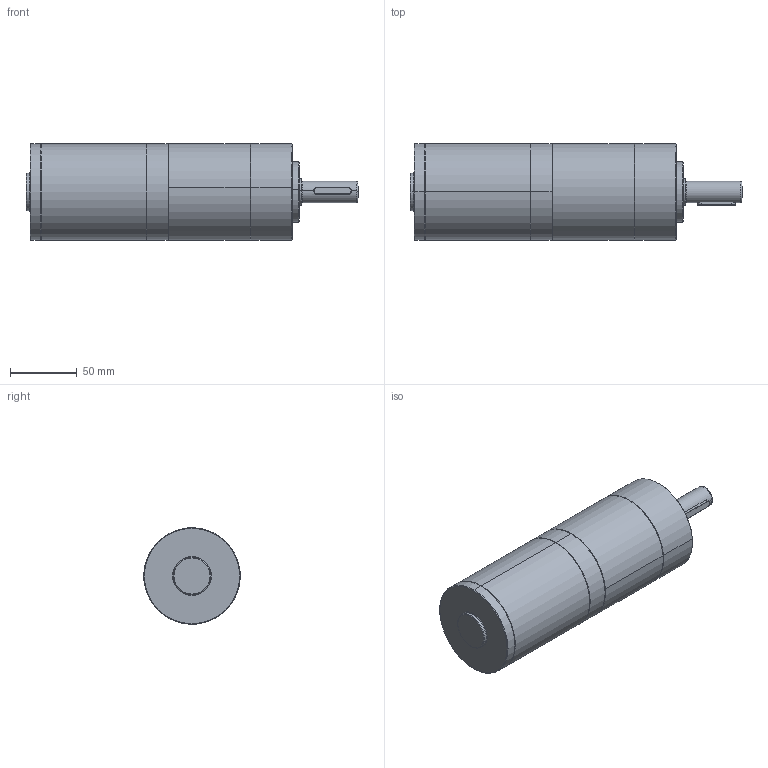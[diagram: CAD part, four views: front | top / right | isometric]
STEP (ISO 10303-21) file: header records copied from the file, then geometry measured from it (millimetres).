
FILE_DESCRIPTION (( 'STEP AP203' ), '1' );
FILE_NAME ('72BLD120W减速比三级整机.STEP', '2021-07-16T04:50:28', ( '' ), ( '' ), 'SwSTEP 2.0', 'SolidWorks 2021', '' );
FILE_SCHEMA (( 'CONFIG_CONTROL_DESIGN' ));
Length unit declared in the file: millimetre
Products named in the file (3): 72PN三级; 72; 72BLD120W减速比三级整机
Assembly tree (2 placements, depth 2):
  72BLD120W减速比三级整机
    72
    72PN三级
Bounding box: 247.8 x 72 x 72 mm (x, y, z)
Volume: 803990.1 mm3; surface area: 66998 mm2
Topology: 2 solids, 2 shells, 162 faces, 353 edges, 209 vertices
Faces by surface type: cylinder 52, plane 50, cone 38, bspline 14, torus 8
Entity records: 5016 total; most frequent: CARTESIAN_POINT 1203, DIRECTION 787, ORIENTED_EDGE 686, EDGE_CURVE 343, AXIS2_PLACEMENT_3D 309, VERTEX_POINT 209, EDGE_LOOP 186, LINE 169
